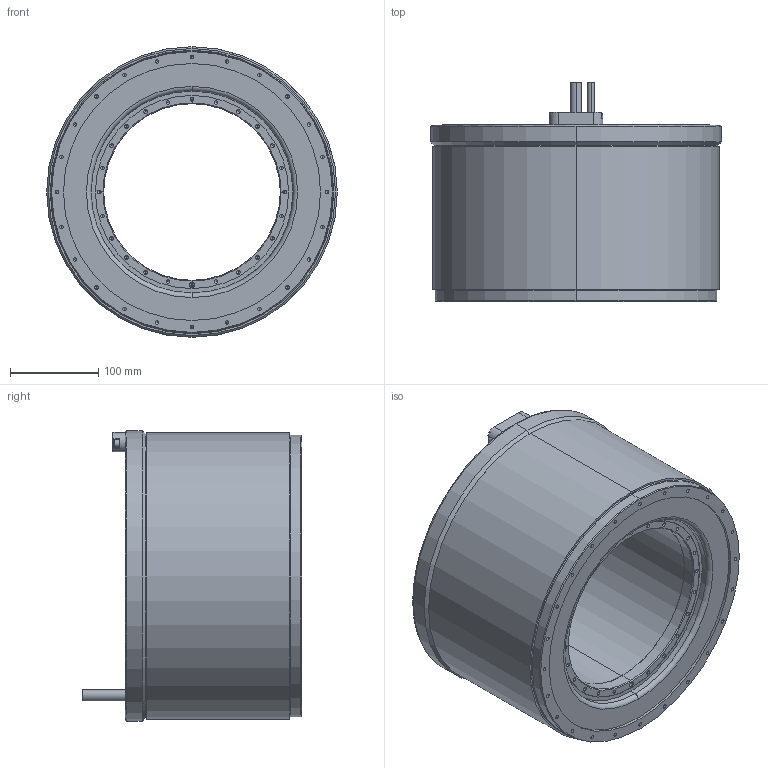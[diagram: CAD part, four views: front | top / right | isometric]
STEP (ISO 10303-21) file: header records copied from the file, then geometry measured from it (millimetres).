
FILE_DESCRIPTION (( 'STEP AP203' ), '1' );
FILE_NAME ('TM-2-7G-SB0(J0).STEP', '2023-06-06T01:31:03', ( '' ), ( '' ), 'SwSTEP 2.0', 'SolidWorks 2015', '' );
FILE_SCHEMA (( 'CONFIG_CONTROL_DESIGN' ));
Length unit declared in the file: millimetre
Products named in the file (3): TM-2-7G-SB0(J0)_Stator; TM-2-7G(J0)_Rotor; TM-2-7G-SB0(J0)
Assembly tree (2 placements, depth 2):
  TM-2-7G-SB0(J0)
    TM-2-7G-SB0(J0)_Stator
    TM-2-7G(J0)_Rotor
Bounding box: 329 x 249 x 329 mm (x, y, z)
Volume: 9752248.2 mm3; surface area: 693591.5 mm2
Topology: 2 solids, 2 shells, 510 faces, 1244 edges, 656 vertices
Faces by surface type: cylinder 244, cone 216, plane 44, torus 6
Entity records: 13807 total; most frequent: DIRECTION 2604, CARTESIAN_POINT 2219, ORIENTED_EDGE 2096, EDGE_CURVE 1048, AXIS2_PLACEMENT_3D 1041, VERTEX_POINT 656, EDGE_LOOP 628, CIRCLE 526
